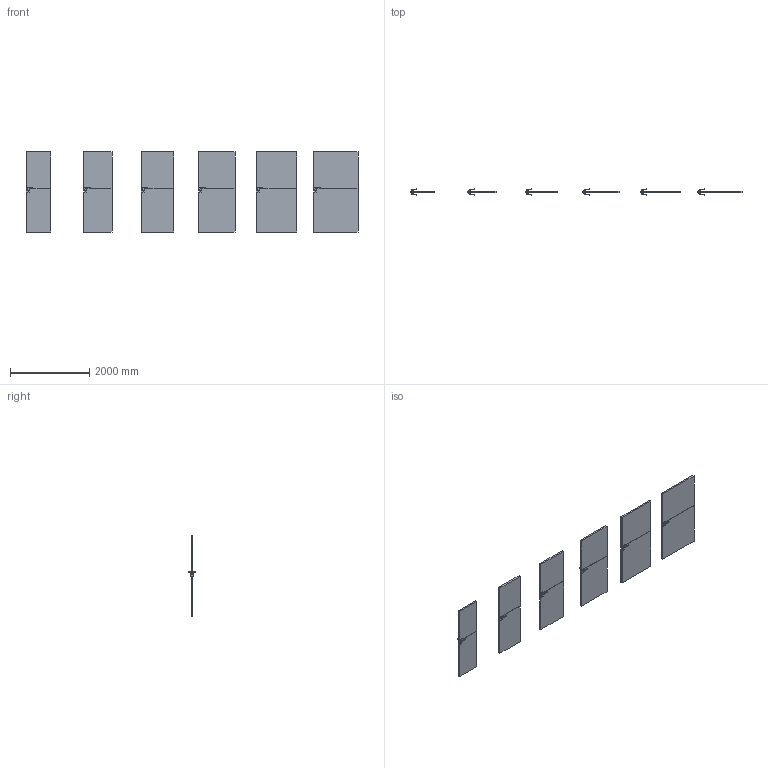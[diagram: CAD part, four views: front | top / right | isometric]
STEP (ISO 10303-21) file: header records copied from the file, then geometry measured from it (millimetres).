
FILE_DESCRIPTION(/* description */ (''),/* implementation_level */ '2;1');
FILE_NAME(/* name */ '049722_A_2-Skrzydło DESIRE model 3_ polska norma _PN__ bezprzylgowe..stp',/* time_stamp */ '2024-02-23T12:59:40+01:00',/* author */ (''),/* organization */ (''),/* preprocessor_version */ 'ST-DEVELOPER v16',/* originating_system */ 'SIEMENS PLM Software NX 11.0',/* authorisation */ '');
FILE_SCHEMA (('AUTOMOTIVE_DESIGN { 1 0 10303 214 3 1 1 1 }'));
Length unit declared in the file: millimetre
Products named in the file (1): bkni3644DE08ayc5
Bounding box: 8368 x 153.27 x 2017 mm (x, y, z)
Volume: 413467946.7 mm3; surface area: 22872187.7 mm2
Topology: 42 solids, 42 shells, 1164 faces, 2712 edges, 1512 vertices
Faces by surface type: plane 516, cylinder 288, bspline 192, sphere 168
Entity records: 38429 total; most frequent: CARTESIAN_POINT 13645, ORIENTED_EDGE 5088, DIRECTION 4898, EDGE_CURVE 2544, AXIS2_PLACEMENT_3D 1741, VERTEX_POINT 1512, LINE 1416, VECTOR 1416
